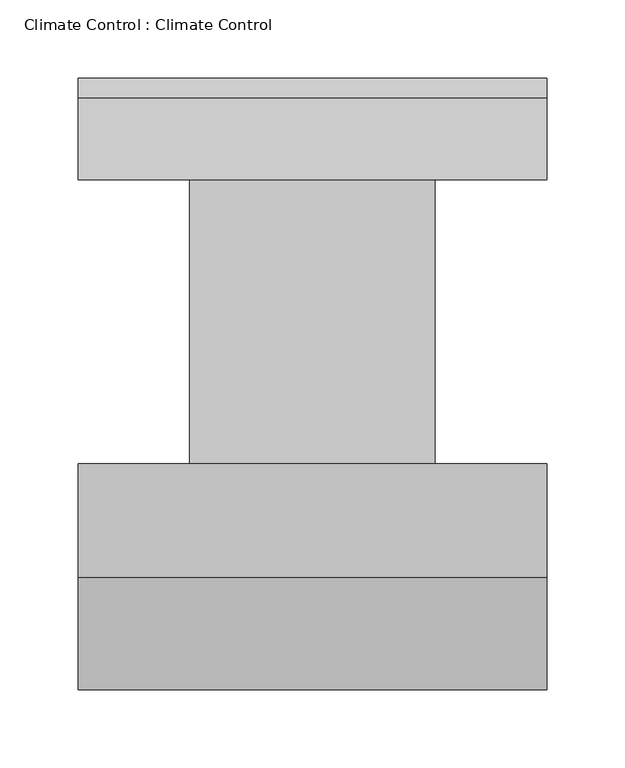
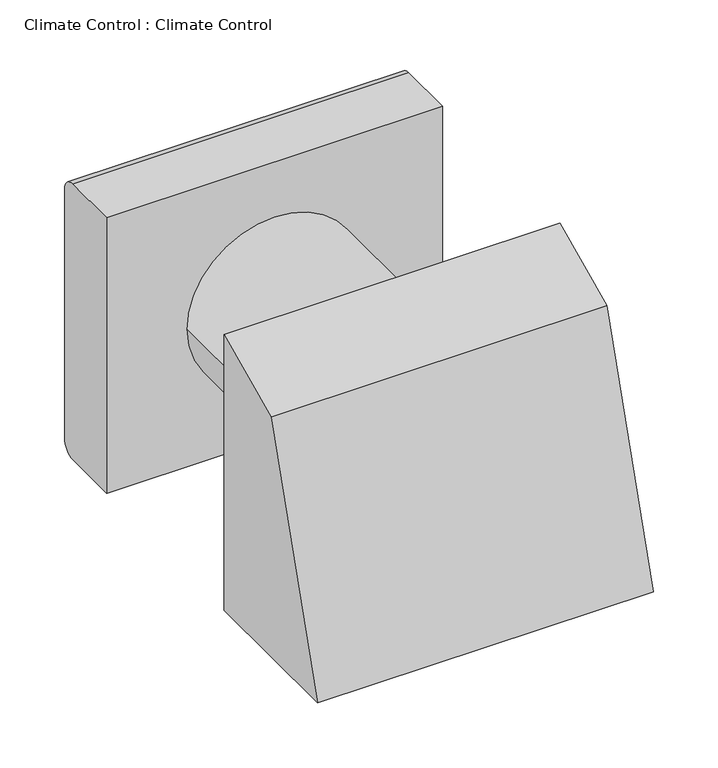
"""IFC4 building model written with IfcOpenShell, lengths in millimetres: proxy geometry, Climate Control : Climate Control."""

from ifc_helpers import new_model, si_unit, point, frame, frame_2d, origin, place, context, project, spatial, polyline, circle_curve, trimmed, segment, composite_curve, outline, extrude, source, transform, mapped, element, save


def climate_control_climate_control_e813e11c(model_context):
    return source(origin(), model_context, "Body", "SweptSolid", [
        extrude(outline(composite_curve([segment(trimmed(circle_curve(frame_2d((156.574, 247.8249889)), 12.7), [point((156.574, 260.5249889))], [point((169.274, 247.8249889))], False, "CARTESIAN"), True, "CONTINUOUS"), segment(polyline([(169.274, 247.8249889), (169.274, 12.8749889)]), True, "CONTINUOUS"), segment(trimmed(circle_curve(frame_2d((156.574, 12.8749889)), 12.7), [point((169.274, 12.8749889))], [point((156.574, 0.1749889))], False, "CARTESIAN"), True, "CONTINUOUS"), segment(polyline([(156.574, 0.1749889), (104.25, 0.1749889), (104.25, 260.5249889), (156.574, 260.5249889)]), True, "CONTINUOUS")], self_intersect=False)), frame((0.0, 0.0, 0.0), z_axis=(1.0, 0.0, 0.0), x_axis=(0.0, 1.0, 0.0)), (0.0, 0.0, 1.0), 300.0),
        extrude(outline(composite_curve([segment(trimmed(circle_curve(frame_2d((130.3499889, 150.0)), 78.5), [point((130.3499889, 71.5))], [point((130.3499889, 228.5))], False, "CARTESIAN"), True, "CONTINUOUS"), segment(trimmed(circle_curve(frame_2d((130.3499889, 150.0)), 78.5), [point((130.3499889, 228.5))], [point((130.3499889, 71.5))], False, "CARTESIAN"), True, "CONTINUOUS")], self_intersect=False)), frame((0.0, -77.4416584, 0.0), z_axis=(0.0, 1.0, 0.0), x_axis=(0.0, 0.0, 1.0)), (0.0, 0.0, 1.0), 181.6916584),
        extrude(outline(polyline([(-77.4416584, 0.0), (-221.9040055, 0.0), (-149.9462814, 226.540528), (-77.4416584, 260.3499889), (-77.4416584, 0.0)])), frame((0.0, 0.0, 0.0), z_axis=(1.0, 0.0, 0.0), x_axis=(0.0, 1.0, 0.0)), (0.0, 0.0, 1.0), 300.0),
    ])


if __name__ == "__main__":
    model = new_model("IFC4")
    model_context = context("Model", 3, world=origin())
    ifc_project = project(units=[si_unit("LENGTHUNIT", "METRE", prefix="MILLI")], contexts=[model_context])
    site = spatial("IfcSite", under=ifc_project)
    building = spatial("IfcBuilding", under=site)
    placement = place(None, origin())
    climate_control_climate_control_shape = climate_control_climate_control_e813e11c(model_context)
    element("IfcBuildingElementProxy", 1, Name="Climate Control : Climate Control", ObjectType="Climate Control : Climate Control", at=placement, inside=building, context=model_context, shape_type="MappedRepresentation", body=[
        mapped(climate_control_climate_control_shape, transform((0.0, 0.0, 0.0), x_axis=(1.0, 0.0, 0.0), y_axis=(0.0, 1.0, 0.0), z_axis=(0.0, 0.0, 1.0))),
    ])
    save(model, "model.ifc")
